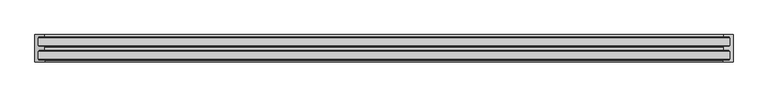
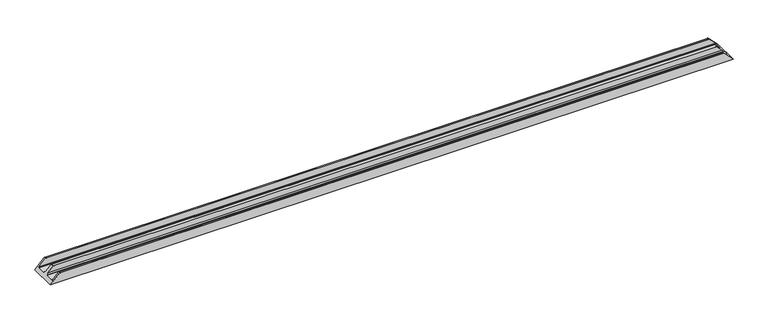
"""IFC4 building model written with IfcOpenShell, lengths in millimetres: proxy geometry, Weiku - Montante - Caixilho duplo 02.3.02.409 : Weiku - Montante - Caixilho duplo 02.3.02.409."""

import ifcopenshell
import ifcopenshell.guid

model = None  # the IFC model being written
_history = None  # IfcOwnerHistory: only IFC2X3 demands one
_inside = {}  # id of a spatial element -> (the spatial element, [elements in it])
_under = {}  # id of a project, library or spatial element -> (it, [spatial elements below it])
_declared = {}  # id of a project -> (the project, [libraries it declares])
_typed = {}  # id of a type object -> (the type object, [elements of that type])
_made_of = {}  # id of a material, layer set ... -> (it, [elements and type objects made of it])


def new_model(schema):
    """Start an empty IFC model of exactly this schema.

    Asked for "IFC4X3", IfcOpenShell would pick the latest addendum, in which some entities
    have other attributes; the version numbers below select the first issue.
    IFC2X3 requires an IfcOwnerHistory on every rooted entity: one is made here for all.
    """
    global model, _history
    if schema == "IFC4X3":
        model = ifcopenshell.file(schema_version=(4, 3, 0, 0))
    else:
        model = ifcopenshell.file(schema=schema)
    _inside.clear()
    _under.clear()
    _declared.clear()
    _typed.clear()
    _made_of.clear()
    _history = None
    if model.schema == "IFC2X3":
        org = make("IfcOrganization", Name="unknown")
        user = make(
            "IfcPersonAndOrganization",
            ThePerson=make("IfcPerson", FamilyName="unknown"),
            TheOrganization=org,
        )
        app = make(
            "IfcApplication",
            ApplicationDeveloper=org,
            Version="unknown",
            ApplicationFullName="unknown",
            ApplicationIdentifier="unknown",
        )
        _history = make(
            "IfcOwnerHistory",
            OwningUser=user,
            OwningApplication=app,
            ChangeAction="ADDED",
            CreationDate=0,
        )
    return model


def make(cls, **values):
    """One entity of the class cls with the attributes given. An attribute that is None is left unset."""
    return model.create_entity(
        cls, **{name: value for name, value in values.items() if value is not None}
    )


def rooted(cls, **values):
    """An entity with a GlobalId (a new one), such as an element, a storey or a relation."""
    return make(cls, GlobalId=ifcopenshell.guid.new(), OwnerHistory=_history, **values)


def si_unit(unit_type, name, prefix=None):
    """IfcSIUnit, for example si_unit("LENGTHUNIT", "METRE", prefix="MILLI")."""
    return make("IfcSIUnit", UnitType=unit_type, Prefix=prefix, Name=name)


def assignment(units):
    """IfcUnitAssignment: the units of a project."""
    return None if units is None else make("IfcUnitAssignment", Units=units)


def point(xyz):
    """IfcCartesianPoint."""
    return None if xyz is None else make("IfcCartesianPoint", Coordinates=xyz)


def direction(xyz):
    """IfcDirection."""
    return None if xyz is None else make("IfcDirection", DirectionRatios=xyz)


def frame(location, z_axis=None, x_axis=None):
    """IfcAxis2Placement3D, a coordinate frame: its origin and axes. An axis left out is left unset."""
    return make(
        "IfcAxis2Placement3D",
        Location=point(location),
        Axis=direction(z_axis),
        RefDirection=direction(x_axis),
    )


def origin():
    """The frame at (0, 0, 0) with its axes left unset."""
    return frame((0.0, 0.0, 0.0))


def place(relative_to, where):
    """IfcLocalPlacement: puts the frame where relative to a parent placement (None: the world)."""
    return make(
        "IfcLocalPlacement", PlacementRelTo=relative_to, RelativePlacement=where
    )


def context(
    kind, dimensions, precision=None, world=None, true_north=None, identifier=None
):
    """IfcGeometricRepresentationContext, for example the 3D "Model" context."""
    return make(
        "IfcGeometricRepresentationContext",
        ContextIdentifier=identifier,
        ContextType=kind,
        CoordinateSpaceDimension=dimensions,
        Precision=precision,
        WorldCoordinateSystem=world,
        TrueNorth=true_north,
    )


def project(units=None, contexts=None):
    """IfcProject with its units and contexts."""
    return rooted(
        "IfcProject",
        Name="project",
        RepresentationContexts=contexts,
        UnitsInContext=assignment(units),
    )


def spatial(cls, under=None, at=None, **own):
    """A site, building, storey or space (cls), placed at a placement, below another one or the project."""
    s = rooted(cls, ObjectPlacement=at, **own)
    if under is not None:
        _under.setdefault(under.id(), (under, []))[1].append(s)
    return s


def ellipse_curve(where, semi_axis1, semi_axis2):
    """IfcEllipse in the frame where."""
    return make(
        "IfcEllipse", Position=where, SemiAxis1=semi_axis1, SemiAxis2=semi_axis2
    )


def shape(context_of_items, identifier, shape_type, items):
    """IfcShapeRepresentation: the items that make up one representation, for example the "Body"."""
    return make(
        "IfcShapeRepresentation",
        ContextOfItems=context_of_items,
        RepresentationIdentifier=identifier,
        RepresentationType=shape_type,
        Items=items,
    )


def source(mapping_origin, context_of_items, identifier, shape_type, items):
    """IfcRepresentationMap: a shape defined once, which mapped items show again and again."""
    return make(
        "IfcRepresentationMap",
        MappingOrigin=mapping_origin,
        MappedRepresentation=shape(context_of_items, identifier, shape_type, items),
    )


def transform(
    local_origin,
    x_axis=None,
    y_axis=None,
    z_axis=None,
    scale=None,
    scale2=None,
    scale3=None,
    uniform=True,
):
    """IfcCartesianTransformationOperator3D, or its non-uniform kind. x_axis, y_axis, z_axis: its Axis1, 2, 3."""
    if uniform:
        return make(
            "IfcCartesianTransformationOperator3D",
            Axis1=direction(x_axis),
            Axis2=direction(y_axis),
            LocalOrigin=point(local_origin),
            Scale=scale,
            Axis3=direction(z_axis),
        )
    return make(
        "IfcCartesianTransformationOperator3DnonUniform",
        Axis1=direction(x_axis),
        Axis2=direction(y_axis),
        LocalOrigin=point(local_origin),
        Scale=scale,
        Axis3=direction(z_axis),
        Scale2=scale2,
        Scale3=scale3,
    )


def mapped(mapping_source, mapping_target):
    """IfcMappedItem: shows the shape of a source again, moved by a transform."""
    return make(
        "IfcMappedItem", MappingSource=mapping_source, MappingTarget=mapping_target
    )


def made_of(thing, what):
    """Note that an element or type object is made of a material, layer set ...; save() writes the relation."""
    if what is not None:
        _made_of.setdefault(what.id(), (what, []))[1].append(thing)
    return thing


def element(
    cls,
    number,
    at=None,
    inside=None,
    cuts=None,
    type_object=None,
    material=None,
    context=None,
    identifier="Body",
    shape_type=None,
    held_by="IfcProductDefinitionShape",
    body=None,
    shapes=None,
    **own,
):
    """One element of the class cls, such as IfcWall. Its Tag is "e" and its number.

    at: its placement. inside: the storey or other place that contains it. cuts: it is an
    opening in that element (IfcRelVoidsElement). A single representation is given by context,
    identifier, shape_type and body (its items); several are given by shapes. held_by: the class
    of the entity that holds the representations. save() writes the other relations.
    """
    e = rooted(cls, Tag="e%d" % number, ObjectPlacement=at, **own)
    if body is not None:
        shapes = [shape(context, identifier, shape_type, body)]
    if shapes is not None:
        e.Representation = make(held_by, Representations=shapes)
    if inside is not None:
        _inside.setdefault(inside.id(), (inside, []))[1].append(e)
    if cuts is not None:
        rooted(
            "IfcRelVoidsElement", RelatingBuildingElement=cuts, RelatedOpeningElement=e
        )
    if type_object is not None:
        _typed.setdefault(type_object.id(), (type_object, []))[1].append(e)
    return made_of(e, material)


def aggregate(whole, parts):
    """IfcRelAggregates: a whole, such as a stair, and the parts it consists of."""
    return rooted("IfcRelAggregates", RelatingObject=whole, RelatedObjects=parts)


def save(model, path):
    """Write the relations noted so far, then the file.

    IfcRelAggregates (storeys below a building ...), IfcRelContainedInSpatialStructure (elements
    in a storey), IfcRelDefinesByType, IfcRelAssociatesMaterial and IfcRelDeclares: one each for
    every whole, place, type object, material and project.
    """
    for whole, parts in _under.values():
        aggregate(whole, parts)
    for where, things in _inside.values():
        rooted(
            "IfcRelContainedInSpatialStructure",
            RelatedElements=things,
            RelatingStructure=where,
        )
    for kind, things in _typed.values():
        rooted("IfcRelDefinesByType", RelatedObjects=things, RelatingType=kind)
    for what, things in _made_of.values():
        rooted("IfcRelAssociatesMaterial", RelatedObjects=things, RelatingMaterial=what)
    for by, libraries in _declared.values():
        rooted("IfcRelDeclares", RelatingContext=by, RelatedDefinitions=libraries)
    model.write(path)


def plane_surface(at):
    """IfcPlane: the flat surface through the origin of the frame at, square to its z axis."""
    return make("IfcPlane", Position=at)


def cylinder_surface(at, radius):
    """IfcCylindricalSurface: all points at the distance radius from the z axis of the frame at."""
    return make("IfcCylindricalSurface", Position=at, Radius=radius)


def advanced_brep(points, edges, surfaces, faces):
    """IfcAdvancedBrep: a solid bounded by faces that lie on surfaces and meet in shared edges.

    An edge is (start, end): straight between two places in points (the first is 0);
    or (start, end, curve); or (start, end, curve, False) where it runs against its curve.
    A face is (place in surfaces, loops), or (place, loops, False) where it looks against
    its surface's normal. A loop lists edges by number (the first is 1), with a minus sign
    where the edge is run from its end to its start. The first loop is the outer one.
    """
    corners = [point(p) for p in points]
    vertices = [make("IfcVertexPoint", VertexGeometry=c) for c in corners]
    made = []
    for start, end, *more in edges:
        made.append(
            make(
                "IfcEdgeCurve",
                EdgeStart=vertices[start],
                EdgeEnd=vertices[end],
                EdgeGeometry=more[0] if more else make("IfcPolyline", Points=[corners[start], corners[end]]),
                SameSense=more[1] if len(more) > 1 else True,
            )
        )
    hull = []
    for where, loops, *sense in faces:
        bounds = []
        for j, loop in enumerate(loops):
            ring = [make("IfcOrientedEdge", EdgeElement=made[abs(k) - 1], Orientation=k > 0) for k in loop]
            bounds.append(
                make(
                    "IfcFaceOuterBound" if j == 0 else "IfcFaceBound",
                    Bound=make("IfcEdgeLoop", EdgeList=ring),
                    Orientation=True,
                )
            )
        hull.append(make("IfcAdvancedFace", Bounds=bounds, FaceSurface=surfaces[where], SameSense=sense[0] if sense else True))
    return make("IfcAdvancedBrep", Outer=make("IfcClosedShell", CfsFaces=hull))


def generic_models_55c52683(model_context):
    return source(origin(), model_context, "Body", "AdvancedBrep", [
        advanced_brep(
        [(-1977.8, -9.8, 18.2), (1977.8, -9.8, 18.2), (1940.1, -9.8, 55.9), (-1940.1, -9.8, 55.9), (-1980.3000079, -63.85, 15.6999921), (1980.3000079, -63.85, 15.6999921), (1980.3000079, -15.05, 15.6999921), (-1980.3000079, -15.05, 15.6999921), (-1940.1000055, -69.1, 55.8999945), (1940.1000055, -69.1, 55.8999945), (1972.1700642, -69.1, 23.8299358), (-1972.1700642, -69.1, 23.8299358), (-1939.6000055, -86.65, 56.3999945), (1939.6000055, -86.65, 56.3999945), (1939.6000055, -69.6, 56.3999945), (-1939.6000055, -69.6, 56.3999945), (-1972.2236827, -87.15, 23.7763173), (1972.2236827, -87.15, 23.7763173), (1940.1000055, -87.15, 55.8999945), (-1940.1000055, -87.15, 55.8999945), (-1996.0, -156.2000166, 0.0), (-1996.0, 0.0, 0.0), (1996.0, 0.0, 0.0), (1996.0, -156.2000166, 0.0), (-1940.1, 0.0, 55.9), (1940.1, 0.0, 55.9), (-1939.6, -9.3, 56.4), (1939.6, -9.3, 56.4), (1939.6, -0.5, 56.4), (-1939.6, -0.5, 56.4), (-1940.1, -156.2000166, 55.9), (-1939.6, -155.7000166, 56.4), (-1939.6, -146.9000166, 56.4), (-1940.1, -146.4000166, 55.9), (-1977.8, -146.4000166, 18.2), (-1977.8, -141.1500166, 18.2), (-1980.3000079, -141.1500166, 15.6999921), (-1980.3000079, -92.3500166, 15.6999921), (-1977.8000178, -92.3500166, 18.1999822), (-1977.8, -63.85, 18.2), (-1977.8, -15.05, 18.2), (1977.8, -15.05, 18.2), (1977.8, -63.85, 18.2), (1977.8000178, -92.3500166, 18.1999822), (1980.3000079, -92.3500166, 15.6999921), (1980.3000079, -141.1500166, 15.6999921), (1977.8, -141.1500166, 18.2), (1977.8, -146.4000166, 18.2), (1940.1, -146.4000166, 55.9), (1939.6, -146.9000166, 56.4), (1939.6, -155.7000166, 56.4), (1940.1, -156.2000166, 55.9)],
        [
            (0, 1),
            (1, 2),
            (2, 3),
            (3, 0),
            (4, 5),
            (5, 6),
            (6, 7),
            (7, 4),
            (8, 9),
            (9, 10),
            (10, 11),
            (11, 8),
            (12, 13),
            (13, 14),
            (14, 15),
            (15, 12),
            (16, 17),
            (17, 18),
            (18, 19),
            (19, 16),
            (20, 21),
            (21, 22),
            (22, 23),
            (23, 20),
            (21, 24),
            (24, 25),
            (25, 22),
            (26, 27),
            (27, 28),
            (28, 29),
            (29, 26),
            (3, 26, ellipse_curve(frame((-1940.1, -9.3, 55.9), z_axis=(-0.7071067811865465, 0.0, 0.7071067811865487), x_axis=(-0.7071067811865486, 0.0, -0.7071067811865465)), 0.7071068, 0.5)),
            (29, 24, ellipse_curve(frame((-1940.1, -0.5, 55.9), z_axis=(-0.7071067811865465, 0.0, 0.7071067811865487), x_axis=(-0.7071067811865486, 0.0, -0.7071067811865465)), 0.7071068, 0.5)),
            (20, 30),
            (30, 31, ellipse_curve(frame((-1940.1, -155.7000166, 55.9), z_axis=(-0.7071067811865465, 0.0, 0.7071067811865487), x_axis=(-0.7071067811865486, 0.0, -0.7071067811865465)), 0.7071068, 0.5)),
            (31, 32),
            (32, 33, ellipse_curve(frame((-1940.1, -146.9000166, 55.9), z_axis=(-0.7071067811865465, 0.0, 0.7071067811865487), x_axis=(-0.7071067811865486, 0.0, -0.7071067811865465)), 0.7071068, 0.5)),
            (33, 34),
            (34, 35),
            (35, 36),
            (36, 37),
            (37, 38),
            (38, 16),
            (19, 12, ellipse_curve(frame((-1940.1000055, -86.65, 55.8999945), z_axis=(-0.7071067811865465, 0.0, 0.7071067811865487), x_axis=(-0.7071067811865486, 0.0, -0.7071067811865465)), 0.7071068, 0.5)),
            (15, 8, ellipse_curve(frame((-1940.1000055, -69.6, 55.8999945), z_axis=(-0.7071067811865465, 0.0, 0.7071067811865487), x_axis=(-0.7071067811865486, 0.0, -0.7071067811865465)), 0.7071068, 0.5)),
            (11, 39),
            (39, 4),
            (7, 40),
            (40, 0),
            (1, 41),
            (41, 6),
            (5, 42),
            (42, 10),
            (9, 14, ellipse_curve(frame((1940.1000055, -69.6, 55.8999945), z_axis=(0.7071067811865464, 0.0, 0.7071067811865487), x_axis=(-0.7071067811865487, 0.0, 0.7071067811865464)), 0.7071068, 0.5)),
            (13, 18, ellipse_curve(frame((1940.1000055, -86.65, 55.8999945), z_axis=(0.7071067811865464, 0.0, 0.7071067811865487), x_axis=(-0.7071067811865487, 0.0, 0.7071067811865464)), 0.7071068, 0.5)),
            (17, 43),
            (43, 44),
            (44, 45),
            (45, 46),
            (46, 47),
            (47, 48),
            (48, 49, ellipse_curve(frame((1940.1, -146.9000166, 55.9), z_axis=(0.7071067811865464, 0.0, 0.7071067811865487), x_axis=(-0.7071067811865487, 0.0, 0.7071067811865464)), 0.7071068, 0.5)),
            (49, 50),
            (50, 51, ellipse_curve(frame((1940.1, -155.7000166, 55.9), z_axis=(0.7071067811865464, 0.0, 0.7071067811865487), x_axis=(-0.7071067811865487, 0.0, 0.7071067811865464)), 0.7071068, 0.5)),
            (51, 23),
            (25, 28, ellipse_curve(frame((1940.1, -0.5, 55.9), z_axis=(0.7071067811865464, 0.0, 0.7071067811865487), x_axis=(-0.7071067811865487, 0.0, 0.7071067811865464)), 0.7071068, 0.5)),
            (27, 2, ellipse_curve(frame((1940.1, -9.3, 55.9), z_axis=(0.7071067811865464, 0.0, 0.7071067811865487), x_axis=(-0.7071067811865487, 0.0, 0.7071067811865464)), 0.7071068, 0.5)),
            (40, 41),
            (39, 42),
            (38, 43),
            (37, 44),
            (36, 45),
            (35, 46),
            (34, 47),
            (33, 48),
            (31, 50),
            (49, 32),
            (30, 51),
        ],
        [
            plane_surface(frame((-1996.0, -9.8, 55.9), z_axis=(0.0, -1.0, 0.0), x_axis=(1.0, 0.0, 0.0))),
            plane_surface(frame((-1996.0, -15.05, 15.6999921), z_axis=(0.0, 0.0, 1.0), x_axis=(1.0, 0.0, 0.0))),
            plane_surface(frame((-1996.0, -69.1, 23.8299358), z_axis=(0.0, 1.0, 0.0), x_axis=(1.0, 0.0, 0.0))),
            plane_surface(frame((-1996.0, -69.6, 56.3999945), z_axis=(0.0, 0.0, 1.0), x_axis=(1.0, 0.0, 0.0))),
            plane_surface(frame((-1996.0, -87.15, 55.8999945), z_axis=(0.0, -1.0, 0.0), x_axis=(1.0, 0.0, 0.0))),
            plane_surface(frame((-1996.0, -156.2000166, 0.0), z_axis=(0.0, 0.0, -1.0), x_axis=(1.0, 0.0, 0.0))),
            plane_surface(frame((-1996.0, 0.0, 0.0), z_axis=(0.0, 1.0, 0.0), x_axis=(1.0, 0.0, 0.0))),
            plane_surface(frame((-1996.0, -0.5, 56.4), z_axis=(0.0, 0.0, 1.0), x_axis=(1.0, 0.0, 0.0))),
            plane_surface(frame((-1996.0, 0.0, 0.0), z_axis=(-0.7071067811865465, 0.0, 0.7071067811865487), x_axis=(0.0, -1.0, 0.0))),
            plane_surface(frame((1936.0, 0.0, 60.0), z_axis=(0.7071067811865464, 0.0, 0.7071067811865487), x_axis=(0.0, -1.0, 0.0))),
            plane_surface(frame((-1996.0, -9.8, 18.2), z_axis=(0.0, 0.0, 1.0), x_axis=(1.0, 0.0, 0.0))),
            plane_surface(frame((-1996.0, -15.05, 18.2), z_axis=(0.0, -1.0, 0.0), x_axis=(1.0, 0.0, 0.0))),
            plane_surface(frame((-1996.0, -63.85, 15.6999921), z_axis=(0.0, 1.0, 0.0), x_axis=(1.0, 0.0, 0.0))),
            plane_surface(frame((-1996.0, -63.85, 18.2), z_axis=(0.0, 0.7313537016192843, 0.6819983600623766), x_axis=(1.0, 0.0, 0.0))),
            cylinder_surface(frame((-1996.0, -86.65, 55.8999945), z_axis=(-1.0, 0.0, 0.0), x_axis=(0.0, -1.0, 0.0)), 0.5),
            cylinder_surface(frame((-1996.0, -0.5, 55.9), z_axis=(-1.0, 0.0, 0.0), x_axis=(0.0, -1.0, 0.0)), 0.5),
            plane_surface(frame((-1996.0, -87.15, 23.7763173), z_axis=(0.0, -0.7313537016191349, 0.6819983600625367), x_axis=(1.0, 0.0, 0.0))),
            plane_surface(frame((-1996.0, -92.3500166, 18.1999822), z_axis=(0.0, -1.0, 0.0), x_axis=(1.0, 0.0, 0.0))),
            plane_surface(frame((-1996.0, -92.3500166, 15.6999921), z_axis=(0.0, 0.0, 1.0), x_axis=(1.0, 0.0, 0.0))),
            plane_surface(frame((-1996.0, -141.1500166, 15.6999921), z_axis=(0.0, 1.0, 0.0), x_axis=(1.0, 0.0, 0.0))),
            plane_surface(frame((-1996.0, -141.1500166, 18.2), z_axis=(0.0, 0.0, 1.0), x_axis=(1.0, 0.0, 0.0))),
            plane_surface(frame((-1996.0, -146.4000166, 18.2), z_axis=(0.0, 1.0, 0.0), x_axis=(1.0, 0.0, 0.0))),
            plane_surface(frame((-1996.0, -146.9000166, 56.4), z_axis=(0.0, 0.0, 1.0), x_axis=(1.0, 0.0, 0.0))),
            cylinder_surface(frame((-1996.0, -155.7000166, 55.9), z_axis=(-1.0, 0.0, 0.0), x_axis=(0.0, 1.0, 0.0)), 0.5),
            plane_surface(frame((-1996.0, -156.2000166, 55.9), z_axis=(0.0, -1.0, 0.0), x_axis=(1.0, 0.0, 0.0))),
            cylinder_surface(frame((-1996.0, -9.3, 55.9), z_axis=(-1.0, 0.0, 0.0), x_axis=(0.0, -1.0, 0.0)), 0.5),
            cylinder_surface(frame((-1996.0, -69.6, 55.8999945), z_axis=(-1.0, 0.0, 0.0), x_axis=(0.0, -1.0, 0.0)), 0.5),
            cylinder_surface(frame((-1996.0, -146.9000166, 55.9), z_axis=(-1.0, 0.0, 0.0), x_axis=(0.0, -1.0, 0.0)), 0.5),
        ],
        [
            (0, [[1, 2, 3, 4]]),
            (1, [[5, 6, 7, 8]]),
            (2, [[9, 10, 11, 12]]),
            (3, [[13, 14, 15, 16]]),
            (4, [[17, 18, 19, 20]]),
            (5, [[21, 22, 23, 24]]),
            (6, [[25, 26, 27, -22]]),
            (7, [[28, 29, 30, 31]]),
            (8, [[32, -31, 33, -25, -21, 34, 35, 36, 37, 38, 39, 40, 41, 42, 43, -20, 44, -16, 45, -12, 46, 47, -8, 48, 49, -4]]),
            (9, [[50, 51, -6, 52, 53, -10, 54, -14, 55, -18, 56, 57, 58, 59, 60, 61, 62, 63, 64, 65, -23, -27, 66, -29, 67, -2]]),
            (10, [[68, -50, -1, -49]]),
            (11, [[-7, -51, -68, -48]]),
            (12, [[69, -52, -5, -47]]),
            (13, [[-11, -53, -69, -46]]),
            (14, [[-19, -55, -13, -44]]),
            (15, [[-30, -66, -26, -33]]),
            (16, [[70, -56, -17, -43]]),
            (17, [[71, -57, -70, -42]]),
            (18, [[72, -58, -71, -41]]),
            (19, [[73, -59, -72, -40]]),
            (20, [[74, -60, -73, -39]]),
            (21, [[75, -61, -74, -38]]),
            (22, [[76, -63, 77, -36]]),
            (23, [[78, -64, -76, -35]]),
            (24, [[-65, -78, -34, -24]]),
            (25, [[-3, -67, -28, -32]]),
            (26, [[-15, -54, -9, -45]]),
            (27, [[-77, -62, -75, -37]]),
        ],
    ),
    ])


if __name__ == "__main__":
    model = new_model("IFC4")
    model_context = context("Model", 3, world=origin())
    ifc_project = project(units=[si_unit("LENGTHUNIT", "METRE", prefix="MILLI")], contexts=[model_context])
    site = spatial("IfcSite", under=ifc_project)
    building = spatial("IfcBuilding", under=site)
    placement = place(None, origin())
    generic_models_shape = generic_models_55c52683(model_context)
    element("IfcBuildingElementProxy", 1, Name="Weiku - Montante - Caixilho duplo 02.3.02.409 : Weiku - Montante - Caixilho duplo 02.3.02.409", ObjectType="Weiku - Montante - Caixilho duplo 02.3.02.409 : Weiku - Montante - Caixilho duplo 02.3.02.409", at=placement, inside=building, context=model_context, shape_type="MappedRepresentation", body=[
        mapped(generic_models_shape, transform((0.0, 0.0, 0.0), x_axis=(1.0, 0.0, 0.0), y_axis=(0.0, 1.0, 0.0), z_axis=(0.0, 0.0, 1.0))),
    ])
    save(model, "model.ifc")
